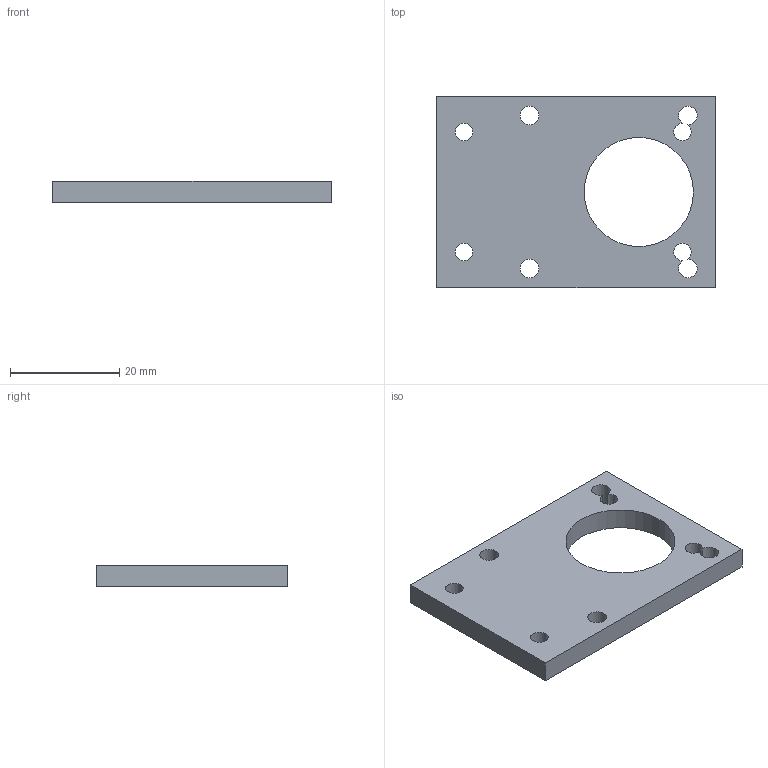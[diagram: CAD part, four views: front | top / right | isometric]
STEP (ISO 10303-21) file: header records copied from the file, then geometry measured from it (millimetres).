
FILE_DESCRIPTION(('Open CASCADE Model'),'2;1');
FILE_NAME('Open CASCADE Shape Model','2026-11-24T19:57:39',('Author'),( 'Open CASCADE'),'Open CASCADE STEP processor 7.8','Open CASCADE 7.8' ,'Unknown');
FILE_SCHEMA(('AUTOMOTIVE_DESIGN { 1 0 10303 214 1 1 1 1 }'));
Length unit declared in the file: millimetre
Products named in the file (1): Open CASCADE STEP translator 7.8 95
Bounding box: 51 x 35 x 4 mm (x, y, z)
Volume: 5610.1 mm3; surface area: 4060.8 mm2
Topology: 1 solids, 1 shells, 15 faces, 39 edges, 26 vertices
Faces by surface type: cylinder 9, plane 6
Full cylindrical faces by diameter (mm): 3.2 x2, 3.4 x2, 20 x1
Entity records: 1011 total; most frequent: CARTESIAN_POINT 164, DIRECTION 162, ORIENTED_EDGE 78, PCURVE 78, DEFINITIONAL_REPRESENTATION 78, LINE 76, VECTOR 76, EDGE_CURVE 39
